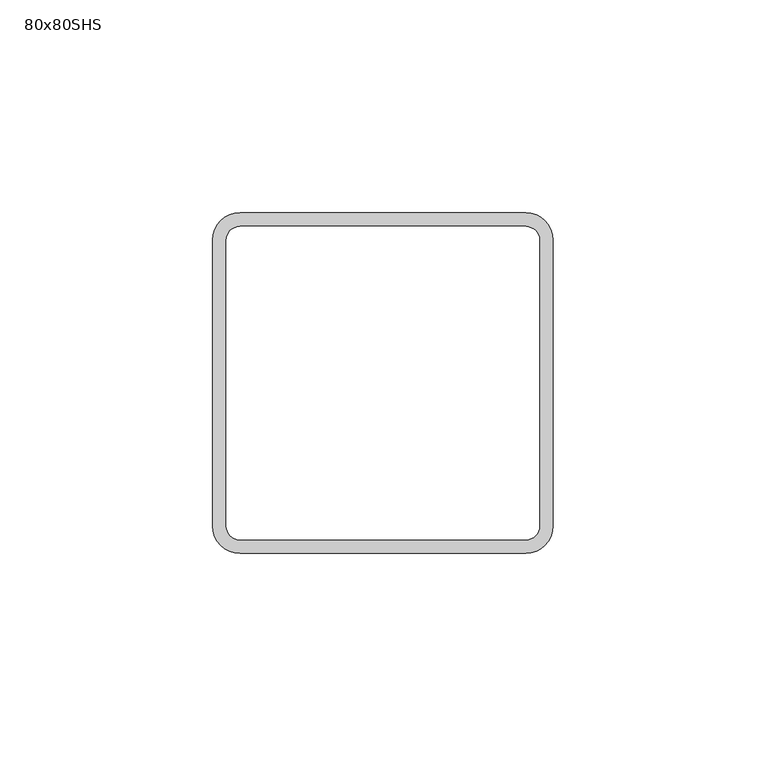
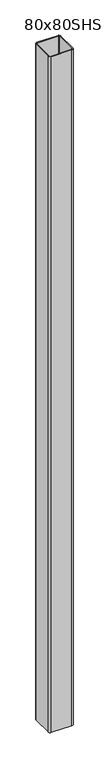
"""IFC4 building model written with IfcOpenShell, lengths in millimetres: column geometry, Poteau - Profil creux carré SHS : 80x80SHS."""

from ifc_helpers import new_model, si_unit, point, frame, frame_2d, origin, place, context, project, spatial, polyline, circle_curve, trimmed, segment, composite_curve, outline, extrude, source, transform, mapped, element, save


def column_80x80shs_b2b58e12(model_context):
    return source(origin(), model_context, "Body", "SweptSolid", [
        extrude(outline(composite_curve([segment(trimmed(circle_curve(frame_2d((33.6, 33.6)), 6.4), [point((33.6, 40.0))], [point((40.0, 33.6))], False, "CARTESIAN"), True, "CONTINUOUS"), segment(polyline([(40.0, 33.6), (40.0, -33.6)]), True, "CONTINUOUS"), segment(trimmed(circle_curve(frame_2d((33.6, -33.6)), 6.4), [point((40.0, -33.6))], [point((33.6, -40.0))], False, "CARTESIAN"), True, "CONTINUOUS"), segment(polyline([(33.6, -40.0), (-33.6, -40.0)]), True, "CONTINUOUS"), segment(trimmed(circle_curve(frame_2d((-33.6, -33.6)), 6.4), [point((-33.6, -40.0))], [point((-40.0, -33.6))], False, "CARTESIAN"), True, "CONTINUOUS"), segment(polyline([(-40.0, -33.6), (-40.0, 33.6)]), True, "CONTINUOUS"), segment(trimmed(circle_curve(frame_2d((-33.6, 33.6)), 6.4), [point((-40.0, 33.6))], [point((-33.6, 40.0))], False, "CARTESIAN"), True, "CONTINUOUS"), segment(polyline([(-33.6, 40.0), (33.6, 40.0)]), True, "CONTINUOUS")], self_intersect=False), holes=[composite_curve([segment(polyline([(33.6, 36.8), (-33.6, 36.8)]), True, "CONTINUOUS"), segment(trimmed(circle_curve(frame_2d((-33.6, 33.6)), 3.2), [point((-33.6, 36.8))], [point((-36.8, 33.6))], True, "CARTESIAN"), True, "CONTINUOUS"), segment(polyline([(-36.8, 33.6), (-36.8, -33.6)]), True, "CONTINUOUS"), segment(trimmed(circle_curve(frame_2d((-33.6, -33.6)), 3.2), [point((-36.8, -33.6))], [point((-33.6, -36.8))], True, "CARTESIAN"), True, "CONTINUOUS"), segment(polyline([(-33.6, -36.8), (33.6, -36.8)]), True, "CONTINUOUS"), segment(trimmed(circle_curve(frame_2d((33.6, -33.6)), 3.2), [point((33.6, -36.8))], [point((36.8, -33.6))], True, "CARTESIAN"), True, "CONTINUOUS"), segment(polyline([(36.8, -33.6), (36.8, 33.6)]), True, "CONTINUOUS"), segment(trimmed(circle_curve(frame_2d((33.6, 33.6)), 3.2), [point((36.8, 33.6))], [point((33.6, 36.8))], True, "CARTESIAN"), True, "CONTINUOUS")], self_intersect=False)]), frame((0.0, 0.0, 5990.0), z_axis=(0.0, 0.0, 1.0), x_axis=(1.0, 0.0, 0.0)), (0.0, 0.0, 1.0), 2310.0),
    ])


if __name__ == "__main__":
    model = new_model("IFC4")
    model_context = context("Model", 3, world=origin())
    ifc_project = project(units=[si_unit("LENGTHUNIT", "METRE", prefix="MILLI")], contexts=[model_context])
    site = spatial("IfcSite", under=ifc_project)
    building = spatial("IfcBuilding", under=site)
    placement = place(None, origin())
    column_80x80shs_shape = column_80x80shs_b2b58e12(model_context)
    element("IfcColumn", 1, ObjectType="Poteau - Profil creux carré SHS : 80x80SHS", at=placement, inside=building, context=model_context, shape_type="MappedRepresentation", body=[
        mapped(column_80x80shs_shape, transform((0.0, 0.0, 0.0), x_axis=(1.0, 0.0, 0.0), y_axis=(0.0, 1.0, 0.0), z_axis=(0.0, 0.0, 1.0))),
    ])
    save(model, "model.ifc")
